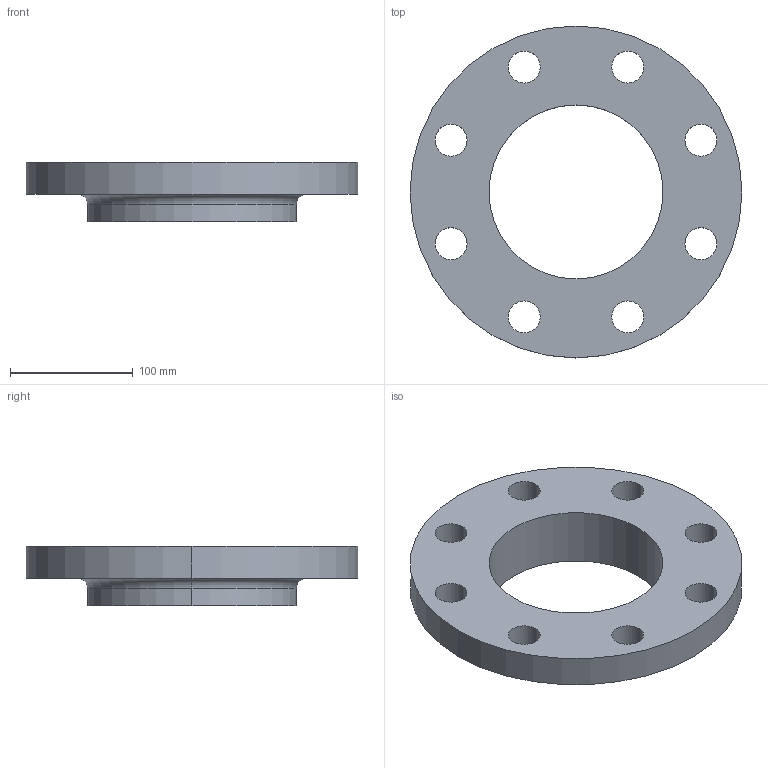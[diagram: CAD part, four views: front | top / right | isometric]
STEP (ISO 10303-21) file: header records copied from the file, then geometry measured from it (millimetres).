
FILE_DESCRIPTION (( 'STEP AP214' ), '1' );
FILE_NAME ('PN40 DN125 Type 12 - Type A Face.STEP', '2019-01-02T19:22:51', ( '' ), ( '' ), 'SwSTEP 2.0', 'SolidWorks 2019', '' );
FILE_SCHEMA (( 'AUTOMOTIVE_DESIGN' ));
Length unit declared in the file: millimetre
Products named in the file (1): PN40 DN125 Type 12 - Type A Face
Bounding box: 270 x 270 x 48 mm (x, y, z)
Volume: 1130234.9 mm3; surface area: 144890.9 mm2
Topology: 1 solids, 1 shells, 27 faces, 70 edges, 46 vertices
Faces by surface type: cylinder 22, plane 3, torus 2
Entity records: 926 total; most frequent: DIRECTION 174, CARTESIAN_POINT 144, ORIENTED_EDGE 140, AXIS2_PLACEMENT_3D 76, EDGE_CURVE 70, CIRCLE 48, EDGE_LOOP 46, VERTEX_POINT 46
